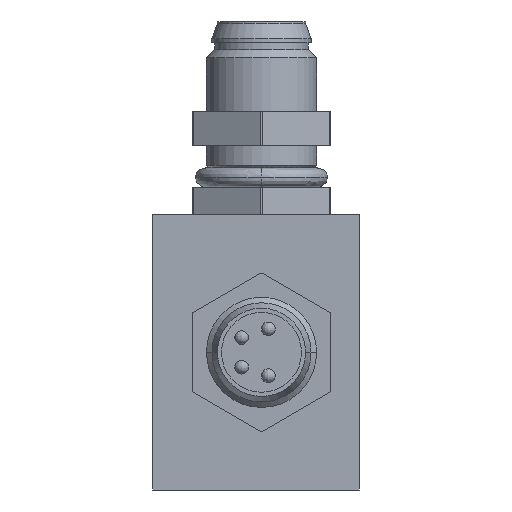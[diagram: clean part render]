
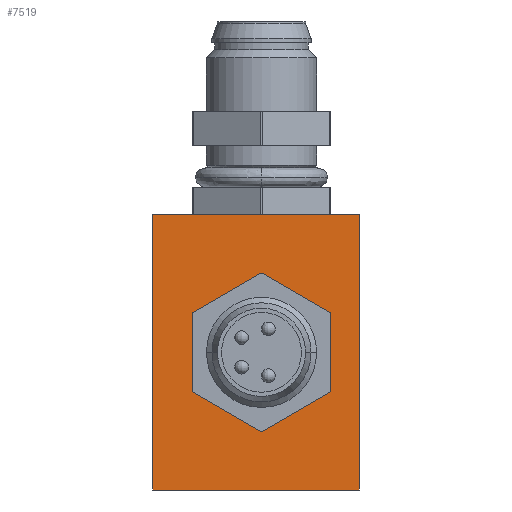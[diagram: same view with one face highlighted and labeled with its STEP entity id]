
A CAD part, left-side view. The second image highlights one B-rep face of the part: STEP entity #7519.
In plain terms, the highlighted planar face has unit normal (-1, 0, 0).
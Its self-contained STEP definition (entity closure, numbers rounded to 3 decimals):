
#10 = DIRECTION ( 'NONE',  ( 0., 0., 1. ) ) ;
#197 = CARTESIAN_POINT ( 'NONE',  ( -47.5, 7.5, -10. ) ) ;
#275 = LINE ( 'NONE', #6945, #5827 ) ;
#1126 = CARTESIAN_POINT ( 'NONE',  ( -47.5, 7.5, -10. ) ) ;
#1188 = EDGE_CURVE ( 'NONE', #7193, #8387, #5588, .T. ) ;
#1576 = CARTESIAN_POINT ( 'NONE',  ( -47.5, -7.5, 10. ) ) ;
#1610 = CARTESIAN_POINT ( 'NONE',  ( -47.5, 7.5, -10. ) ) ;
#1911 = LINE ( 'NONE', #3561, #6117 ) ;
#2009 = CARTESIAN_POINT ( 'NONE',  ( -47.5, 7.5, 10. ) ) ;
#2385 = PLANE ( 'NONE',  #6577 ) ;
#2516 = DIRECTION ( 'NONE',  ( 0., 0., 1. ) ) ;
#2785 = ORIENTED_EDGE ( 'NONE', *, *, #8838, .T. ) ;
#3046 = CARTESIAN_POINT ( 'NONE',  ( -47.5, 7.5, 10. ) ) ;
#3561 = CARTESIAN_POINT ( 'NONE',  ( -47.5, 7.5, -10. ) ) ;
#3569 = VERTEX_POINT ( 'NONE', #1576 ) ;
#4440 = ORIENTED_EDGE ( 'NONE', *, *, #5793, .F. ) ;
#5054 = EDGE_LOOP ( 'NONE', ( #2785, #5568, #4440, #6381 ) ) ;
#5188 = DIRECTION ( 'NONE',  ( 1., 0., 0. ) ) ;
#5315 = DIRECTION ( 'NONE',  ( 0., -1., 0. ) ) ;
#5568 = ORIENTED_EDGE ( 'NONE', *, *, #9031, .F. ) ;
#5588 = LINE ( 'NONE', #197, #6519 ) ;
#5793 = EDGE_CURVE ( 'NONE', #7193, #6563, #1911, .T. ) ;
#5827 = VECTOR ( 'NONE', #2516, 1000. ) ;
#6032 = DIRECTION ( 'NONE',  ( 0., 0., -1. ) ) ;
#6117 = VECTOR ( 'NONE', #10, 1000. ) ;
#6283 = VECTOR ( 'NONE', #7136, 1000. ) ;
#6381 = ORIENTED_EDGE ( 'NONE', *, *, #1188, .T. ) ;
#6519 = VECTOR ( 'NONE', #5315, 1000. ) ;
#6563 = VERTEX_POINT ( 'NONE', #3046 ) ;
#6577 = AXIS2_PLACEMENT_3D ( 'NONE', #1610, #5188, #6032 ) ;
#6945 = CARTESIAN_POINT ( 'NONE',  ( -47.5, -7.5, -10. ) ) ;
#7136 = DIRECTION ( 'NONE',  ( 0., -1., 0. ) ) ;
#7193 = VERTEX_POINT ( 'NONE', #1126 ) ;
#7203 = CARTESIAN_POINT ( 'NONE',  ( -47.5, -7.5, -10. ) ) ;
#7519 = ADVANCED_FACE ( 'NONE', ( #8577 ), #2385, .F. ) ;
#8387 = VERTEX_POINT ( 'NONE', #7203 ) ;
#8577 = FACE_OUTER_BOUND ( 'NONE', #5054, .T. ) ;
#8680 = LINE ( 'NONE', #2009, #6283 ) ;
#8838 = EDGE_CURVE ( 'NONE', #8387, #3569, #275, .T. ) ;
#9031 = EDGE_CURVE ( 'NONE', #6563, #3569, #8680, .T. ) ;
